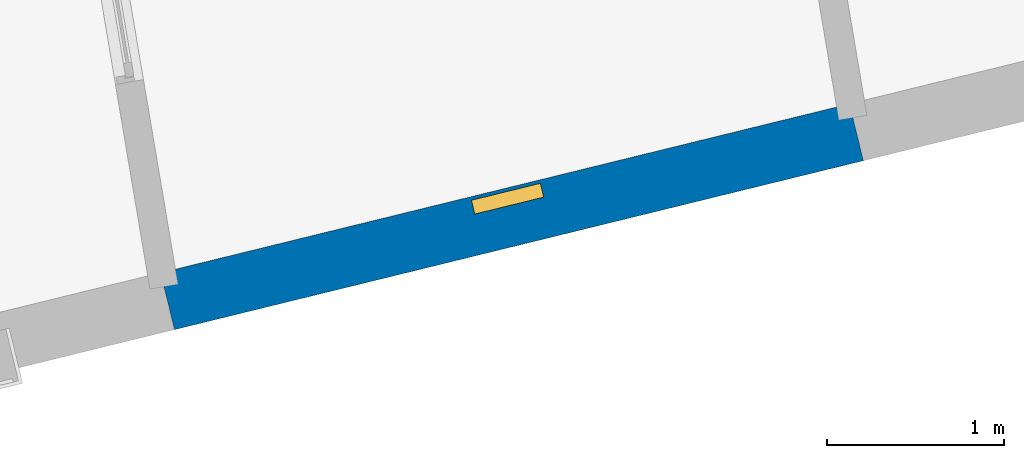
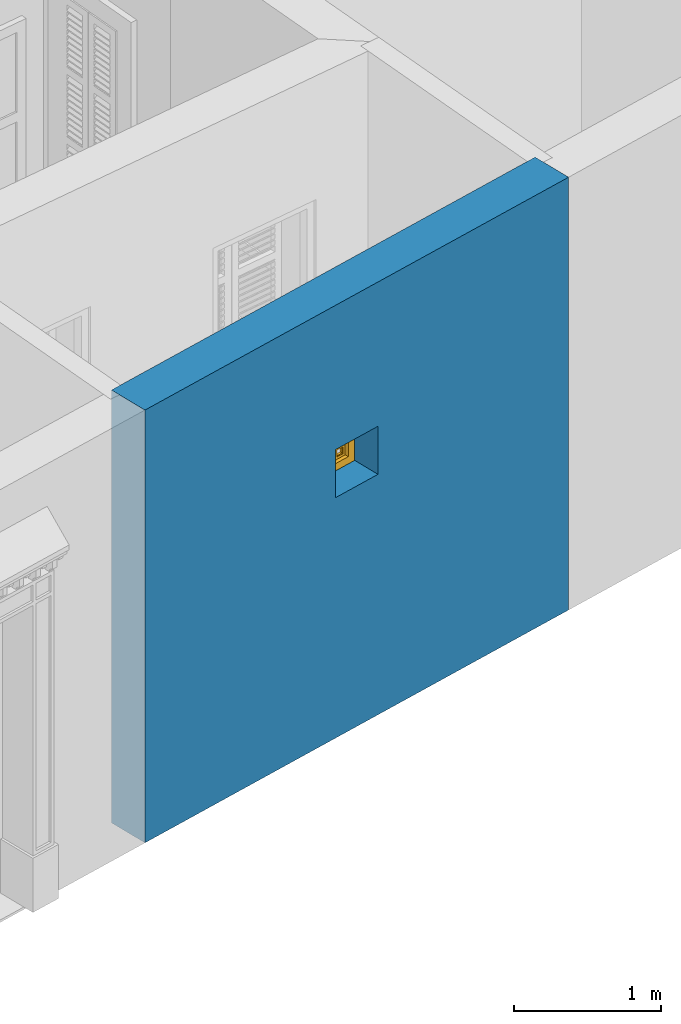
# One storey, part 5 of 15: 1 wall, 1 window, 1 opening.
"""IFC4 building model written with IfcOpenShell, lengths in metres."""

from ifc_helpers import new_model, si_unit, frame, origin, origin_with_axes, place, context, subcontext, project, spatial, polyline, outline, extrude, faceted_brep, source, transform, mapped, material, layer, layer_set, layer_usage, type_object, type_shapes, element, fill, save


model = new_model("IFC4")

# Units and contexts
model_context = context("Model", 3, world=origin_with_axes())
body_context = subcontext(model_context, "Body", "Model", "MODEL_VIEW")
ifc_project = project(units=[si_unit("PLANEANGLEUNIT", "RADIAN"), si_unit("MASSUNIT", "GRAM", prefix="KILO"), si_unit("FORCEUNIT", "NEWTON", prefix="KILO"), si_unit("LENGTHUNIT", "METRE"), si_unit("AREAUNIT", "SQUARE_METRE"), si_unit("VOLUMEUNIT", "CUBIC_METRE")], contexts=[model_context, model_context])

# Site, building, storey
site_placement = place(None, origin_with_axes())
site = spatial("IfcSite", under=ifc_project, at=site_placement, Name="Site plot-6", CompositionType="ELEMENT")
building_placement = place(None, origin_with_axes())
building = spatial("IfcBuilding", under=site, at=building_placement, Name="Building plot-6", CompositionType="ELEMENT")
storey_placement = place(None, origin_with_axes())
storey = spatial("IfcBuildingStorey", under=building, at=storey_placement, Name="plot-6 0", CompositionType="ELEMENT", Elevation=0.0)

# Wall, opening, window
ifc_material = material(Name="Masonry")
ifc_layer = layer(ifc_material, 0.33, ventilated=False)
ifc_layer_set = layer_set([ifc_layer], Name="exterior_0.08_0.25")
ifc_layer_usage = layer_usage(ifc_layer_set, "AXIS2", "POSITIVE", -0.25)
wall_type = type_object("IfcWallType", Name="exterior_0.08_0.25", PredefinedType="SOLIDWALL", material=ifc_layer_set)
wall_placement = place(storey_placement, frame((-6.01733764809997, -2.84391455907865, 0.0), z_axis=(0.0, 0.0, 1.0), x_axis=(0.971213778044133, 0.238209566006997, 0.0)))
wall = element("IfcWall", 1, at=wall_placement, inside=storey, type_object=wall_type, material=ifc_layer_usage, Name="exterior", context=body_context, shape_type="SweptSolid", body=[
    extrude(outline(polyline([(-3.06285495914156e-17, 0.08), (1.26330387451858e-16, -0.25), (3.99883369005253, -0.25), (3.99883369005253, 0.0800000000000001), (-3.06285495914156e-17, 0.08)])), origin_with_axes(), (0.0, 0.0, 1.0), 3.6),
])
opening_placement = place(wall_placement, frame((1.79941684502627, 0.0, 2.0)))
opening = element("IfcOpeningElement", 2, at=opening_placement, cuts=wall, Name="My Opening", ObjectType="Opening", context=body_context, shape_type="SweptSolid", body=[
    extrude(outline(polyline([(0.0, -0.27), (0.399999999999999, -0.27), (0.399999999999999, 1.1), (2.22044604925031e-16, 1.1), (0.0, -0.27)])), origin_with_axes(), (0.0, 0.0, 1.0), 0.4),
])
window_type = type_object("IfcWindowType", Name="barred_window", PartitioningType="DOUBLE_PANEL_HORIZONTAL", PredefinedType="NOTDEFINED")
shared_shape = source(origin(), body_context, "Body", "Brep", [
    faceted_brep([(0.4, 0.25, 0.4), (0.0, 0.25, 0.4), (0.06, 0.25, 0.34), (0.34, 0.25, 0.34), (0.06, 0.33, 0.34), (0.34, 0.33, 0.34), (0.34, 0.25, 0.06), (0.4, 0.25, 0.0), (0.4, 0.33, 0.4), (0.0, 0.33, 0.4), (0.0, 0.25, 0.0), (0.06, 0.25, 0.06), (0.06, 0.33, 0.06), (0.34, 0.33, 0.06), (0.4, 0.33, 0.0), (0.0, 0.33, 0.0), (0.136152, 0.28, 0.08), (0.08, 0.28, 0.08), (0.06, 0.28, 0.06), (0.136152, 0.28, 0.06), (0.136152, 0.29, 0.08), (0.08, 0.29, 0.08), (0.06, 0.28, 0.136152), (0.08, 0.28, 0.136152), (0.06, 0.29, 0.06), (0.136152, 0.29, 0.06), (0.170294, 0.28, 0.08), (0.170294, 0.28, 0.06), (0.136152, 0.28, 0.136152), (0.136152, 0.29, 0.136152), (0.08, 0.29, 0.136152), (0.06, 0.29, 0.136152), (0.08, 0.28, 0.170294), (0.06, 0.28, 0.170294), (0.170294, 0.29, 0.06), (0.229706, 0.28, 0.08), (0.229706, 0.28, 0.06), (0.156152, 0.28, 0.094142), (0.156152, 0.28, 0.136152), (0.185858, 0.28, 0.123848), (0.185858, 0.29, 0.123848), (0.156152, 0.29, 0.094142), (0.156152, 0.29, 0.136152), (0.229706, 0.29, 0.08), (0.170294, 0.29, 0.08), (0.2, 0.28, 0.109706), (0.2, 0.29, 0.109706), (0.06, 0.29, 0.170294), (0.094142, 0.28, 0.156152), (0.08, 0.28, 0.229706), (0.06, 0.28, 0.229706), (0.229706, 0.29, 0.06), (0.263848, 0.28, 0.08), (0.263848, 0.28, 0.06), (0.156152, 0.28, 0.156152), (0.136152, 0.28, 0.156152), (0.173553, 0.28, 0.136152), (0.173553, 0.29, 0.136152), (0.156152, 0.29, 0.156152), (0.136152, 0.29, 0.156152), (0.094142, 0.29, 0.156152), (0.08, 0.29, 0.170294), (0.06, 0.29, 0.229706), (0.123848, 0.28, 0.185858), (0.109706, 0.28, 0.2), (0.08, 0.29, 0.229706), (0.08, 0.28, 0.263848), (0.06, 0.28, 0.263848), (0.263848, 0.29, 0.06), (0.2, 0.28, 0.13799), (0.214142, 0.28, 0.123848), (0.34, 0.28, 0.06), (0.32, 0.28, 0.08), (0.181838, 0.28, 0.156152), (0.136152, 0.28, 0.173553), (0.156152, 0.28, 0.181838), (0.181838, 0.29, 0.156152), (0.2, 0.29, 0.13799), (0.214142, 0.29, 0.123848), (0.136152, 0.29, 0.173553), (0.156152, 0.29, 0.181838), (0.243848, 0.28, 0.094142), (0.243848, 0.29, 0.094142), (0.263848, 0.28, 0.136152), (0.263848, 0.29, 0.08), (0.263848, 0.29, 0.136152), (0.32, 0.29, 0.08), (0.243848, 0.28, 0.136152), (0.243848, 0.29, 0.136152), (0.06, 0.29, 0.263848), (0.123848, 0.29, 0.185858), (0.13799, 0.28, 0.2), (0.123848, 0.28, 0.214142), (0.109706, 0.29, 0.2), (0.094142, 0.28, 0.243848), (0.08, 0.28, 0.32), (0.06, 0.28, 0.34), (0.34, 0.29, 0.06), (0.218162, 0.28, 0.156152), (0.226447, 0.28, 0.136152), (0.34, 0.28, 0.229706), (0.32, 0.28, 0.229706), (0.32, 0.28, 0.170294), (0.32, 0.28, 0.136152), (0.218162, 0.29, 0.156152), (0.226447, 0.29, 0.136152), (0.13799, 0.29, 0.2), (0.32, 0.29, 0.136152), (0.08, 0.29, 0.263848), (0.06, 0.29, 0.34), (0.136152, 0.28, 0.226447), (0.156152, 0.28, 0.218162), (0.094142, 0.29, 0.243848), (0.123848, 0.29, 0.214142), (0.136152, 0.28, 0.243848), (0.136152, 0.28, 0.263848), (0.08, 0.29, 0.32), (0.136152, 0.28, 0.34), (0.136152, 0.28, 0.32), (0.34, 0.29, 0.229706), (0.243848, 0.28, 0.156152), (0.263848, 0.28, 0.156152), (0.34, 0.28, 0.263848), (0.32, 0.28, 0.263848), (0.32, 0.29, 0.229706), (0.32, 0.29, 0.170294), (0.290294, 0.28, 0.2), (0.276152, 0.28, 0.185858), (0.305858, 0.28, 0.156152), (0.243848, 0.29, 0.156152), (0.263848, 0.29, 0.156152), (0.305858, 0.29, 0.156152), (0.276152, 0.29, 0.185858), (0.290294, 0.29, 0.2), (0.136152, 0.29, 0.34), (0.136152, 0.29, 0.226447), (0.156152, 0.29, 0.218162), (0.156152, 0.28, 0.243848), (0.136152, 0.29, 0.243848), (0.156152, 0.28, 0.263848), (0.136152, 0.29, 0.263848), (0.136152, 0.29, 0.32), (0.170294, 0.28, 0.32), (0.170294, 0.28, 0.34), (0.34, 0.29, 0.263848), (0.243848, 0.28, 0.181838), (0.263848, 0.28, 0.173553), (0.34, 0.28, 0.34), (0.32, 0.28, 0.32), (0.305858, 0.28, 0.243848), (0.276152, 0.28, 0.214142), (0.26201, 0.28, 0.2), (0.243848, 0.29, 0.181838), (0.263848, 0.29, 0.173553), (0.26201, 0.29, 0.2), (0.276152, 0.29, 0.214142), (0.32, 0.29, 0.263848), (0.170294, 0.29, 0.34), (0.156152, 0.29, 0.243848), (0.173553, 0.28, 0.263848), (0.181838, 0.28, 0.243848), (0.156152, 0.28, 0.305858), (0.229706, 0.28, 0.32), (0.229706, 0.28, 0.34), (0.34, 0.29, 0.34), (0.263848, 0.28, 0.34), (0.263848, 0.28, 0.32), (0.32, 0.29, 0.32), (0.263848, 0.28, 0.263848), (0.263848, 0.28, 0.243848), (0.305858, 0.29, 0.243848), (0.263848, 0.28, 0.226447), (0.243848, 0.28, 0.218162), (0.243848, 0.29, 0.218162), (0.263848, 0.29, 0.226447), (0.156152, 0.29, 0.263848), (0.170294, 0.29, 0.32), (0.229706, 0.29, 0.34), (0.181838, 0.29, 0.243848), (0.173553, 0.29, 0.263848), (0.185858, 0.28, 0.276152), (0.2, 0.28, 0.26201), (0.156152, 0.29, 0.305858), (0.229706, 0.29, 0.32), (0.263848, 0.29, 0.34), (0.263848, 0.29, 0.32), (0.263848, 0.29, 0.263848), (0.243848, 0.28, 0.243848), (0.243848, 0.28, 0.263848), (0.263848, 0.29, 0.243848), (0.243848, 0.29, 0.243848), (0.2, 0.29, 0.26201), (0.185858, 0.29, 0.276152), (0.214142, 0.28, 0.276152), (0.218162, 0.28, 0.243848), (0.226447, 0.28, 0.263848), (0.243848, 0.28, 0.305858), (0.2, 0.28, 0.290294), (0.2, 0.29, 0.290294), (0.243848, 0.29, 0.263848), (0.218162, 0.29, 0.243848), (0.214142, 0.29, 0.276152), (0.226447, 0.29, 0.263848), (0.243848, 0.29, 0.305858)], [[[0, 1, 2, 3]], [[3, 2, 4, 5]], [[3, 6, 7, 0]], [[1, 0, 8, 9]], [[1, 10, 11, 2]], [[2, 11, 12, 4]], [[9, 8, 5, 4]], [[6, 3, 5, 13]], [[6, 11, 10, 7]], [[0, 7, 14, 8]], [[10, 1, 9, 15]], [[11, 6, 13, 12]], [[4, 12, 15, 9]], [[8, 14, 13, 5]], [[7, 10, 15, 14]], [[12, 13, 14, 15]], [[16, 17, 18, 19]], [[17, 16, 20, 21]], [[22, 18, 17, 23]], [[19, 18, 24, 25]], [[26, 16, 19, 27]], [[16, 28, 29, 20]], [[21, 20, 25, 24]], [[23, 17, 21, 30]], [[18, 22, 31, 24]], [[23, 32, 33, 22]], [[27, 19, 25, 34]], [[35, 26, 27, 36]], [[28, 16, 37, 38]], [[37, 39, 40, 41]], [[38, 37, 41, 42]], [[20, 29, 42, 41]], [[26, 35, 43, 44]], [[45, 26, 44, 46]], [[20, 44, 34, 25]], [[28, 23, 30, 29]], [[24, 31, 30, 21]], [[22, 33, 47, 31]], [[48, 32, 23]], [[32, 49, 50, 33]], [[36, 27, 34, 51]], [[39, 37, 26, 45]], [[52, 35, 36, 53]], [[38, 54, 55, 28]], [[39, 56, 57, 40]], [[41, 40, 46, 44]], [[56, 38, 42, 57]], [[58, 42, 29, 59]], [[35, 45, 46, 43]], [[44, 43, 51, 34]], [[23, 28, 55, 48]], [[29, 30, 60, 59]], [[61, 30, 31, 47]], [[33, 50, 62, 47]], [[48, 63, 64, 32]], [[49, 32, 61, 65]], [[49, 66, 67, 50]], [[53, 36, 51, 68]], [[69, 39, 45, 70]], [[53, 71, 72, 52]], [[73, 54, 38, 56]], [[74, 55, 54, 75]], [[56, 39, 69, 73]], [[40, 57, 76, 77]], [[40, 77, 78, 46]], [[58, 76, 57, 42]], [[59, 79, 80, 58]], [[45, 35, 81, 70]], [[43, 46, 78, 82]], [[83, 52, 84, 85]], [[82, 84, 43]], [[52, 72, 86, 84]], [[43, 84, 68, 51]], [[44, 20, 41]], [[70, 81, 82, 78]], [[81, 87, 88, 82]], [[48, 55, 59, 60]], [[61, 60, 30]], [[65, 61, 47, 62]], [[50, 67, 89, 62]], [[63, 48, 60, 90]], [[63, 91, 92, 64]], [[32, 64, 93, 61]], [[64, 49, 65, 93]], [[94, 66, 49]], [[66, 95, 96, 67]], [[71, 53, 68, 97]], [[98, 69, 70, 99]], [[81, 52, 83, 87]], [[72, 71, 100]], [[100, 101, 102]], [[103, 72, 100]], [[100, 102, 103]], [[54, 73, 76, 58]], [[55, 74, 79, 59]], [[75, 54, 58, 80]], [[63, 74, 75, 91]], [[73, 69, 77, 76]], [[77, 104, 105, 78]], [[79, 90, 106, 80]], [[84, 82, 88, 85]], [[103, 83, 85, 107]], [[72, 103, 107, 86]], [[97, 68, 84, 86]], [[99, 70, 78, 105]], [[87, 99, 105, 88]], [[90, 60, 61, 93]], [[108, 65, 62, 89]], [[67, 96, 109, 89]], [[74, 63, 90, 79]], [[110, 92, 91, 111]], [[49, 64, 92, 94]], [[93, 65, 112, 113]], [[94, 114, 115, 66]], [[95, 66, 108, 116]], [[117, 96, 95, 118]], [[100, 71, 97, 119]], [[69, 98, 104, 77]], [[99, 87, 120, 98]], [[87, 83, 121, 120]], [[101, 100, 122, 123]], [[102, 101, 124, 125]], [[121, 83, 103]], [[103, 102, 126]], [[126, 127, 128]], [[128, 121, 103]], [[103, 126, 128]], [[91, 75, 80, 106]], [[88, 105, 104, 129]], [[106, 90, 93, 113]], [[85, 88, 129, 130]], [[107, 85, 130]], [[131, 132, 133]], [[107, 130, 131]], [[133, 125, 107]], [[107, 131, 133]], [[124, 119, 97]], [[97, 86, 107]], [[107, 125, 124]], [[97, 107, 124]], [[108, 112, 65]], [[116, 108, 89, 109]], [[96, 117, 134, 109]], [[92, 110, 135, 113]], [[111, 91, 106, 136]], [[114, 110, 111, 137]], [[94, 92, 113, 112]], [[114, 94, 112, 138]], [[114, 137, 139, 115]], [[66, 115, 140, 108]], [[118, 95, 116, 141]], [[118, 142, 143, 117]], [[122, 100, 119, 144]], [[98, 120, 129, 104]], [[145, 120, 121, 146]], [[122, 147, 148, 123]], [[123, 149, 101]], [[101, 126, 133, 124]], [[126, 102, 125, 133]], [[127, 126, 150, 151]], [[128, 127, 132, 131]], [[121, 128, 131, 130]], [[113, 135, 136, 106]], [[129, 152, 153, 130]], [[133, 132, 154, 155]], [[119, 124, 156, 144]], [[138, 112, 108, 140]], [[109, 134, 141, 116]], [[117, 143, 157, 134]], [[110, 114, 138, 135]], [[137, 111, 136, 158]], [[159, 139, 137, 160]], [[118, 115, 139, 161]], [[115, 118, 141, 140]], [[161, 142, 118]], [[162, 163, 143, 142]], [[147, 122, 144, 164]], [[120, 145, 152, 129]], [[146, 121, 130, 153]], [[146, 127, 151, 145]], [[147, 165, 166, 148]], [[123, 148, 167, 156]], [[149, 123, 168, 169]], [[149, 150, 126, 101]], [[155, 170, 124, 133]], [[151, 150, 171, 172]], [[127, 146, 153, 132]], [[135, 138, 158, 136]], [[132, 153, 152, 154]], [[155, 154, 173, 174]], [[170, 156, 124]], [[164, 144, 156, 167]], [[158, 138, 140, 175]], [[176, 141, 134, 157]], [[143, 163, 177, 157]], [[160, 137, 158, 178]], [[139, 159, 179, 175]], [[180, 159, 160, 181]], [[161, 139, 175, 182]], [[140, 141, 182, 175]], [[166, 165, 163, 162]], [[162, 142, 176, 183]], [[165, 147, 164, 184]], [[145, 151, 154, 152]], [[148, 166, 185, 167]], [[156, 186, 168, 123]], [[187, 169, 168, 188]], [[149, 169, 189, 170]], [[150, 149, 170, 155]], [[171, 150, 155, 174]], [[171, 169, 187, 172]], [[151, 172, 173, 154]], [[189, 174, 173, 190]], [[156, 170, 189, 186]], [[184, 164, 167, 185]], [[175, 179, 178, 158]], [[176, 182, 141]], [[177, 183, 176, 157]], [[163, 165, 184, 177]], [[181, 160, 178, 191]], [[159, 180, 192, 179]], [[180, 161, 182, 192]], [[193, 181, 194, 195]], [[196, 162, 197, 193]], [[180, 197, 142, 161]], [[197, 180, 181, 193]], [[142, 197, 198, 176]], [[162, 196, 166]], [[35, 52, 81]], [[197, 162, 183, 198]], [[185, 166, 168, 186]], [[196, 188, 168, 166]], [[187, 188, 195, 194]], [[169, 171, 174, 189]], [[172, 187, 190, 173]], [[189, 190, 199, 186]], [[184, 185, 183, 177]], [[179, 192, 191, 178]], [[176, 198, 192, 182]], [[194, 181, 191, 200]], [[191, 192, 198, 201]], [[26, 37, 16]], [[193, 195, 202, 201]], [[196, 193, 201, 203]], [[191, 201, 202, 200]], [[183, 203, 201, 198]], [[188, 196, 203, 199]], [[203, 183, 185]], [[199, 203, 185, 186]], [[195, 188, 199, 202]], [[187, 194, 200, 190]], [[199, 190, 200, 202]]]),
])
type_shapes(window_type, [shared_shape])
window_placement = place(storey_placement, frame((-4.20540263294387, -2.67750397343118, 2.0), z_axis=(0.0, 0.0, 1.0), x_axis=(0.388485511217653, 0.0952838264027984, 0.0)))
window = element("IfcWindow", 3, at=window_placement, inside=storey, type_object=window_type, Name="toilet street window", OverallHeight=0.4, OverallWidth=0.4, context=body_context, shape_type="MappedRepresentation", body=[
    mapped(shared_shape, transform((0.0, 0.0, 0.0), scale=1.0)),
])
fill(opening, window)

save(model, "model.ifc")
